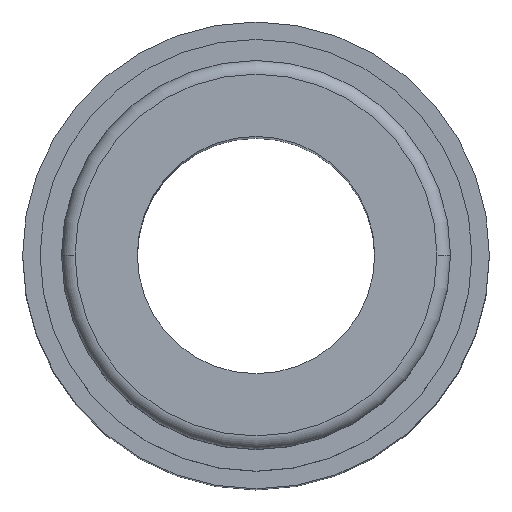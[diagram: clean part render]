
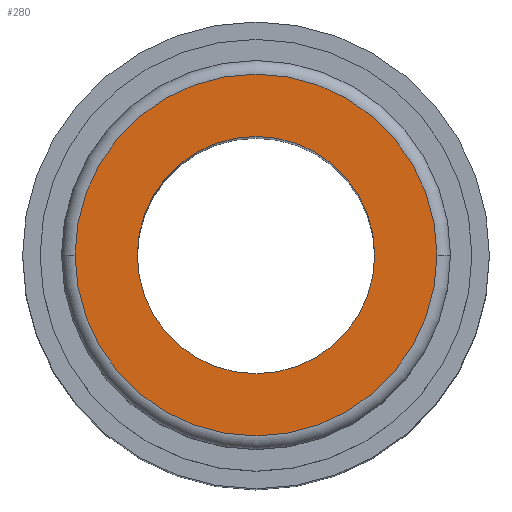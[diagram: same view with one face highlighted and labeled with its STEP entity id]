
A CAD part, top view. The second image highlights one B-rep face of the part: STEP entity #280.
In plain terms, the highlighted planar face has unit normal (0, 0, 1).
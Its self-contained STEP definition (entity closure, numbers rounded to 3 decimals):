
#19 = CARTESIAN_POINT ( 'NONE',  ( -3.05, 0., 14.1 ) ) ;
#21 = VERTEX_POINT ( 'NONE', #211 ) ;
#37 = VERTEX_POINT ( 'NONE', #475 ) ;
#40 = AXIS2_PLACEMENT_3D ( 'NONE', #358, #357, #734 ) ;
#60 = EDGE_LOOP ( 'NONE', ( #560, #137 ) ) ;
#132 = EDGE_CURVE ( 'NONE', #374, #732, #447, .T. ) ;
#137 = ORIENTED_EDGE ( 'NONE', *, *, #132, .F. ) ;
#141 = ORIENTED_EDGE ( 'NONE', *, *, #599, .T. ) ;
#143 = DIRECTION ( 'NONE',  ( 0., 0., 1. ) ) ;
#175 = EDGE_CURVE ( 'NONE', #21, #37, #405, .T. ) ;
#211 = CARTESIAN_POINT ( 'NONE',  ( 4.65, 0., 14.1 ) ) ;
#244 = EDGE_CURVE ( 'NONE', #732, #374, #320, .T. ) ;
#280 = ADVANCED_FACE ( 'NONE', ( #557, #808 ), #547, .T. ) ;
#281 = DIRECTION ( 'NONE',  ( 1., 0., 0. ) ) ;
#291 = CARTESIAN_POINT ( 'NONE',  ( 0., 0., 14.1 ) ) ;
#320 = CIRCLE ( 'NONE', #548, 3.05 ) ;
#325 = DIRECTION ( 'NONE',  ( 1., 0., 0. ) ) ;
#349 = CARTESIAN_POINT ( 'NONE',  ( 3.05, 0., 14.1 ) ) ;
#357 = DIRECTION ( 'NONE',  ( 0., 0., 1. ) ) ;
#358 = CARTESIAN_POINT ( 'NONE',  ( 0., 0., 14.1 ) ) ;
#374 = VERTEX_POINT ( 'NONE', #19 ) ;
#380 = DIRECTION ( 'NONE',  ( 0., 0., 1. ) ) ;
#389 = AXIS2_PLACEMENT_3D ( 'NONE', #791, #833, #662 ) ;
#402 = ORIENTED_EDGE ( 'NONE', *, *, #175, .T. ) ;
#405 = CIRCLE ( 'NONE', #389, 4.65 ) ;
#447 = CIRCLE ( 'NONE', #770, 3.05 ) ;
#464 = CARTESIAN_POINT ( 'NONE',  ( 0., 0., 14.1 ) ) ;
#469 = CIRCLE ( 'NONE', #656, 4.65 ) ;
#475 = CARTESIAN_POINT ( 'NONE',  ( -4.65, 0., 14.1 ) ) ;
#527 = CARTESIAN_POINT ( 'NONE',  ( 0., 0., 14.1 ) ) ;
#547 = PLANE ( 'NONE',  #40 ) ;
#548 = AXIS2_PLACEMENT_3D ( 'NONE', #291, #666, #281 ) ;
#557 = FACE_BOUND ( 'NONE', #60, .T. ) ;
#560 = ORIENTED_EDGE ( 'NONE', *, *, #244, .F. ) ;
#590 = EDGE_LOOP ( 'NONE', ( #402, #141 ) ) ;
#599 = EDGE_CURVE ( 'NONE', #37, #21, #469, .T. ) ;
#656 = AXIS2_PLACEMENT_3D ( 'NONE', #464, #380, #325 ) ;
#662 = DIRECTION ( 'NONE',  ( 1., 0., 0. ) ) ;
#666 = DIRECTION ( 'NONE',  ( 0., 0., 1. ) ) ;
#732 = VERTEX_POINT ( 'NONE', #349 ) ;
#734 = DIRECTION ( 'NONE',  ( 1., 0., 0. ) ) ;
#770 = AXIS2_PLACEMENT_3D ( 'NONE', #527, #143, #783 ) ;
#783 = DIRECTION ( 'NONE',  ( 1., 0., 0. ) ) ;
#791 = CARTESIAN_POINT ( 'NONE',  ( 0., 0., 14.1 ) ) ;
#808 = FACE_OUTER_BOUND ( 'NONE', #590, .T. ) ;
#833 = DIRECTION ( 'NONE',  ( 0., 0., 1. ) ) ;
